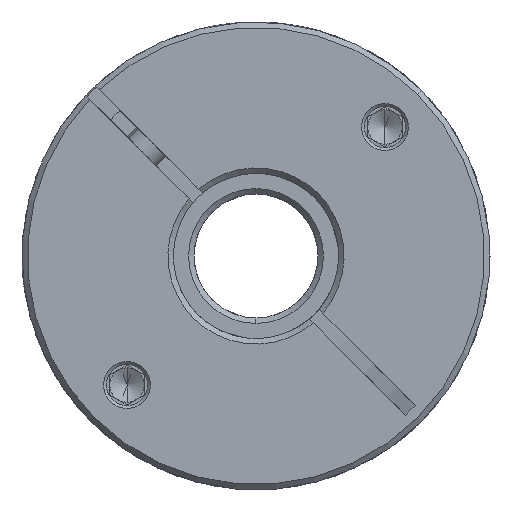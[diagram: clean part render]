
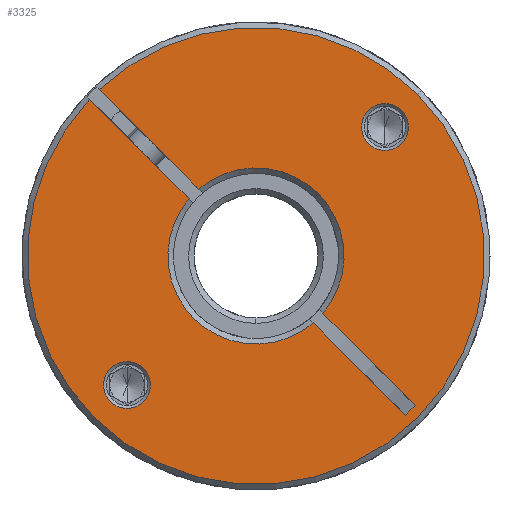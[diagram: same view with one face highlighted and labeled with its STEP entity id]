
A CAD part, front view. The second image highlights one B-rep face of the part: STEP entity #3325.
In plain terms, the highlighted planar face has unit normal (0, -1, 0).
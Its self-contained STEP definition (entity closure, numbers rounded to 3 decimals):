
#28 = FACE_BOUND ( 'NONE', #9535, .T. ) ;
#56 = VERTEX_POINT ( 'NONE', #5544 ) ;
#660 = EDGE_CURVE ( 'NONE', #19577, #20371, #13315, .T. ) ;
#699 = CIRCLE ( 'NONE', #8293, 33.2 ) ;
#766 = CARTESIAN_POINT ( 'NONE',  ( -2.735, -67.045, 68. ) ) ;
#818 = CIRCLE ( 'NONE', #11403, 3.4 ) ;
#1006 = ORIENTED_EDGE ( 'NONE', *, *, #660, .T. ) ;
#1615 = CARTESIAN_POINT ( 'NONE',  ( -2.028, -67.045, 68.707 ) ) ;
#1816 = EDGE_CURVE ( 'NONE', #2088, #3904, #5801, .T. ) ;
#2064 = CARTESIAN_POINT ( 'NONE',  ( -3.442, -67.045, 67.293 ) ) ;
#2088 = VERTEX_POINT ( 'NONE', #14761 ) ;
#2365 = DIRECTION ( 'NONE',  ( 0., 1., 0. ) ) ;
#3020 = AXIS2_PLACEMENT_3D ( 'NONE', #766, #17512, #9091 ) ;
#3057 = CARTESIAN_POINT ( 'NONE',  ( -23.878, -67.045, 46.858 ) ) ;
#3325 = ADVANCED_FACE ( 'NONE', ( #12675, #28, #17139 ), #15760, .T. ) ;
#3348 = AXIS2_PLACEMENT_3D ( 'NONE', #5646, #15691, #7527 ) ;
#3528 = AXIS2_PLACEMENT_3D ( 'NONE', #8642, #11854, #15207 ) ;
#3605 = VECTOR ( 'NONE', #21288, 1000. ) ;
#3672 = VECTOR ( 'NONE', #19998, 1000. ) ;
#3857 = EDGE_CURVE ( 'NONE', #18116, #18553, #11296, .T. ) ;
#3904 = VERTEX_POINT ( 'NONE', #18726 ) ;
#4284 = AXIS2_PLACEMENT_3D ( 'NONE', #20665, #2365, #18970 ) ;
#4359 = EDGE_CURVE ( 'NONE', #18553, #18116, #10246, .T. ) ;
#4422 = ORIENTED_EDGE ( 'NONE', *, *, #1816, .T. ) ;
#4545 = VERTEX_POINT ( 'NONE', #9313 ) ;
#4724 = ORIENTED_EDGE ( 'NONE', *, *, #4359, .T. ) ;
#4753 = LINE ( 'NONE', #1615, #9112 ) ;
#5165 = DIRECTION ( 'NONE',  ( 0., 1., 0. ) ) ;
#5457 = CIRCLE ( 'NONE', #8270, 33.2 ) ;
#5544 = CARTESIAN_POINT ( 'NONE',  ( -26.908, -67.045, 90.758 ) ) ;
#5646 = CARTESIAN_POINT ( 'NONE',  ( -2.735, -67.045, 68. ) ) ;
#5654 = DIRECTION ( 'NONE',  ( 0.707, 0., 0.707 ) ) ;
#5657 = CARTESIAN_POINT ( 'NONE',  ( 16.003, -67.045, 86.738 ) ) ;
#5801 = CIRCLE ( 'NONE', #20370, 12.8 ) ;
#5819 = CARTESIAN_POINT ( 'NONE',  ( -2.735, -67.045, 68. ) ) ;
#5953 = CARTESIAN_POINT ( 'NONE',  ( -11.051, -67.045, 77.73 ) ) ;
#6118 = ORIENTED_EDGE ( 'NONE', *, *, #10678, .T. ) ;
#6939 = CARTESIAN_POINT ( 'NONE',  ( -12.466, -67.045, 76.316 ) ) ;
#6951 = ORIENTED_EDGE ( 'NONE', *, *, #11491, .T. ) ;
#6952 = VERTEX_POINT ( 'NONE', #3057 ) ;
#7249 = DIRECTION ( 'NONE',  ( 0., -1., 0. ) ) ;
#7382 = AXIS2_PLACEMENT_3D ( 'NONE', #5657, #5165, #13494 ) ;
#7527 = DIRECTION ( 'NONE',  ( 0.707, 0., 0.707 ) ) ;
#7672 = ORIENTED_EDGE ( 'NONE', *, *, #12299, .F. ) ;
#7755 = DIRECTION ( 'NONE',  ( 0., 1., 0. ) ) ;
#7819 = DIRECTION ( 'NONE',  ( 0., -1., 0. ) ) ;
#8134 = EDGE_CURVE ( 'NONE', #4545, #9182, #18693, .T. ) ;
#8143 = EDGE_CURVE ( 'NONE', #14114, #19646, #21341, .T. ) ;
#8198 = VERTEX_POINT ( 'NONE', #5953 ) ;
#8264 = CARTESIAN_POINT ( 'NONE',  ( -2.735, -67.045, 68. ) ) ;
#8270 = AXIS2_PLACEMENT_3D ( 'NONE', #16267, #7819, #21023 ) ;
#8293 = AXIS2_PLACEMENT_3D ( 'NONE', #8264, #19957, #16711 ) ;
#8349 = DIRECTION ( 'NONE',  ( 0.707, 0., -0.707 ) ) ;
#8477 = EDGE_CURVE ( 'NONE', #14114, #9182, #12686, .T. ) ;
#8487 = ORIENTED_EDGE ( 'NONE', *, *, #21048, .T. ) ;
#8642 = CARTESIAN_POINT ( 'NONE',  ( 16.003, -67.045, 86.738 ) ) ;
#8951 = ORIENTED_EDGE ( 'NONE', *, *, #3857, .T. ) ;
#9091 = DIRECTION ( 'NONE',  ( 0.707, 0., 0.707 ) ) ;
#9112 = VECTOR ( 'NONE', #8349, 1000. ) ;
#9182 = VERTEX_POINT ( 'NONE', #11270 ) ;
#9313 = CARTESIAN_POINT ( 'NONE',  ( 20.402, -67.045, 46.277 ) ) ;
#9460 = CARTESIAN_POINT ( 'NONE',  ( -2.735, -67.045, 68. ) ) ;
#9535 = EDGE_LOOP ( 'NONE', ( #10266, #6118 ) ) ;
#9539 = ORIENTED_EDGE ( 'NONE', *, *, #8477, .F. ) ;
#9842 = VECTOR ( 'NONE', #15855, 1000. ) ;
#9943 = ORIENTED_EDGE ( 'NONE', *, *, #8134, .T. ) ;
#10051 = CARTESIAN_POINT ( 'NONE',  ( -19.069, -67.045, 51.666 ) ) ;
#10220 = CARTESIAN_POINT ( 'NONE',  ( -21.473, -67.045, 49.262 ) ) ;
#10246 = CIRCLE ( 'NONE', #7382, 3.4 ) ;
#10266 = ORIENTED_EDGE ( 'NONE', *, *, #12882, .T. ) ;
#10613 = AXIS2_PLACEMENT_3D ( 'NONE', #17176, #7249, #5654 ) ;
#10678 = EDGE_CURVE ( 'NONE', #6952, #18163, #818, .T. ) ;
#10826 = DIRECTION ( 'NONE',  ( 0.707, 0., 0.707 ) ) ;
#11270 = CARTESIAN_POINT ( 'NONE',  ( 18.988, -67.045, 44.862 ) ) ;
#11296 = CIRCLE ( 'NONE', #3528, 3.4 ) ;
#11403 = AXIS2_PLACEMENT_3D ( 'NONE', #10220, #20134, #13321 ) ;
#11491 = EDGE_CURVE ( 'NONE', #20371, #8198, #16327, .T. ) ;
#11854 = DIRECTION ( 'NONE',  ( 0., 1., 0. ) ) ;
#12056 = EDGE_CURVE ( 'NONE', #8198, #2088, #20250, .T. ) ;
#12299 = EDGE_CURVE ( 'NONE', #56, #19646, #19961, .T. ) ;
#12319 = VERTEX_POINT ( 'NONE', #16451 ) ;
#12675 = FACE_BOUND ( 'NONE', #19398, .T. ) ;
#12686 = LINE ( 'NONE', #2064, #3672 ) ;
#12882 = EDGE_CURVE ( 'NONE', #18163, #6952, #14934, .T. ) ;
#13227 = ORIENTED_EDGE ( 'NONE', *, *, #16690, .T. ) ;
#13315 = CIRCLE ( 'NONE', #10613, 33.2 ) ;
#13321 = DIRECTION ( 'NONE',  ( 0.707, 0., 0.707 ) ) ;
#13494 = DIRECTION ( 'NONE',  ( 0.707, 0., 0.707 ) ) ;
#14114 = VERTEX_POINT ( 'NONE', #16675 ) ;
#14177 = DIRECTION ( 'NONE',  ( 0.707, 0., 0.707 ) ) ;
#14203 = CARTESIAN_POINT ( 'NONE',  ( 18.407, -67.045, 89.142 ) ) ;
#14761 = CARTESIAN_POINT ( 'NONE',  ( 6.316, -67.045, 77.051 ) ) ;
#14934 = CIRCLE ( 'NONE', #4284, 3.4 ) ;
#15109 = EDGE_LOOP ( 'NONE', ( #7672, #8487, #16712, #1006, #6951, #20264, #4422, #13227, #9943, #9539, #19190 ) ) ;
#15207 = DIRECTION ( 'NONE',  ( 0.707, 0., 0.707 ) ) ;
#15381 = AXIS2_PLACEMENT_3D ( 'NONE', #9460, #7755, #10826 ) ;
#15403 = DIRECTION ( 'NONE',  ( 0.707, 0., -0.707 ) ) ;
#15691 = DIRECTION ( 'NONE',  ( 0., -1., 0. ) ) ;
#15704 = CARTESIAN_POINT ( 'NONE',  ( 13.599, -67.045, 84.334 ) ) ;
#15760 = PLANE ( 'NONE',  #3348 ) ;
#15855 = DIRECTION ( 'NONE',  ( -0.707, 0., -0.707 ) ) ;
#16068 = CARTESIAN_POINT ( 'NONE',  ( 18.988, -67.045, 44.862 ) ) ;
#16267 = CARTESIAN_POINT ( 'NONE',  ( -2.735, -67.045, 68. ) ) ;
#16327 = LINE ( 'NONE', #20548, #17626 ) ;
#16451 = CARTESIAN_POINT ( 'NONE',  ( -26.211, -67.045, 44.524 ) ) ;
#16675 = CARTESIAN_POINT ( 'NONE',  ( 5.581, -67.045, 58.27 ) ) ;
#16690 = EDGE_CURVE ( 'NONE', #3904, #4545, #4753, .T. ) ;
#16711 = DIRECTION ( 'NONE',  ( 0.707, 0., 0.707 ) ) ;
#16712 = ORIENTED_EDGE ( 'NONE', *, *, #19590, .T. ) ;
#17139 = FACE_OUTER_BOUND ( 'NONE', #15109, .T. ) ;
#17176 = CARTESIAN_POINT ( 'NONE',  ( -2.735, -67.045, 68. ) ) ;
#17512 = DIRECTION ( 'NONE',  ( 0., 1., 0. ) ) ;
#17545 = DIRECTION ( 'NONE',  ( 0., 1., 0. ) ) ;
#17626 = VECTOR ( 'NONE', #15403, 1000. ) ;
#18116 = VERTEX_POINT ( 'NONE', #15704 ) ;
#18163 = VERTEX_POINT ( 'NONE', #10051 ) ;
#18553 = VERTEX_POINT ( 'NONE', #14203 ) ;
#18688 = CARTESIAN_POINT ( 'NONE',  ( -25.493, -67.045, 92.172 ) ) ;
#18693 = LINE ( 'NONE', #16068, #9842 ) ;
#18726 = CARTESIAN_POINT ( 'NONE',  ( 6.995, -67.045, 59.684 ) ) ;
#18970 = DIRECTION ( 'NONE',  ( 0.707, 0., 0.707 ) ) ;
#19190 = ORIENTED_EDGE ( 'NONE', *, *, #8143, .T. ) ;
#19398 = EDGE_LOOP ( 'NONE', ( #4724, #8951 ) ) ;
#19577 = VERTEX_POINT ( 'NONE', #21160 ) ;
#19590 = EDGE_CURVE ( 'NONE', #12319, #19577, #5457, .T. ) ;
#19646 = VERTEX_POINT ( 'NONE', #6939 ) ;
#19957 = DIRECTION ( 'NONE',  ( 0., -1., 0. ) ) ;
#19961 = LINE ( 'NONE', #21359, #3605 ) ;
#19998 = DIRECTION ( 'NONE',  ( 0.707, 0., -0.707 ) ) ;
#20134 = DIRECTION ( 'NONE',  ( 0., 1., 0. ) ) ;
#20250 = CIRCLE ( 'NONE', #3020, 12.8 ) ;
#20264 = ORIENTED_EDGE ( 'NONE', *, *, #12056, .T. ) ;
#20370 = AXIS2_PLACEMENT_3D ( 'NONE', #5819, #17545, #14177 ) ;
#20371 = VERTEX_POINT ( 'NONE', #18688 ) ;
#20548 = CARTESIAN_POINT ( 'NONE',  ( -2.028, -67.045, 68.707 ) ) ;
#20665 = CARTESIAN_POINT ( 'NONE',  ( -21.473, -67.045, 49.262 ) ) ;
#21023 = DIRECTION ( 'NONE',  ( 0.707, 0., 0.707 ) ) ;
#21048 = EDGE_CURVE ( 'NONE', #56, #12319, #699, .T. ) ;
#21160 = CARTESIAN_POINT ( 'NONE',  ( 20.741, -67.045, 91.476 ) ) ;
#21288 = DIRECTION ( 'NONE',  ( 0.707, 0., -0.707 ) ) ;
#21341 = CIRCLE ( 'NONE', #15381, 12.8 ) ;
#21359 = CARTESIAN_POINT ( 'NONE',  ( -3.442, -67.045, 67.293 ) ) ;
